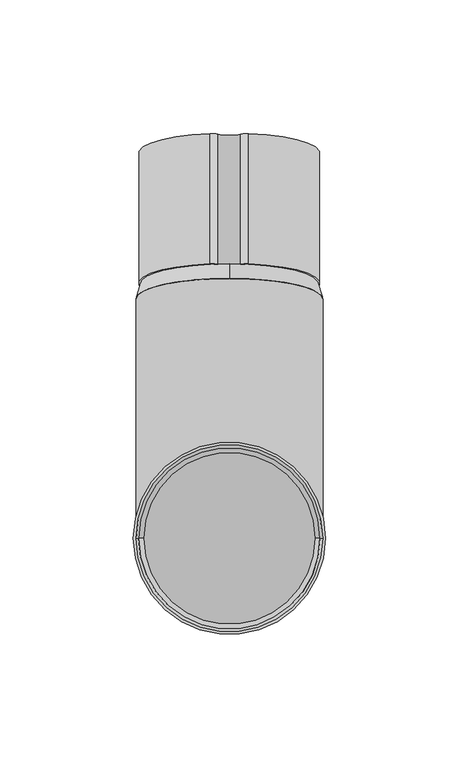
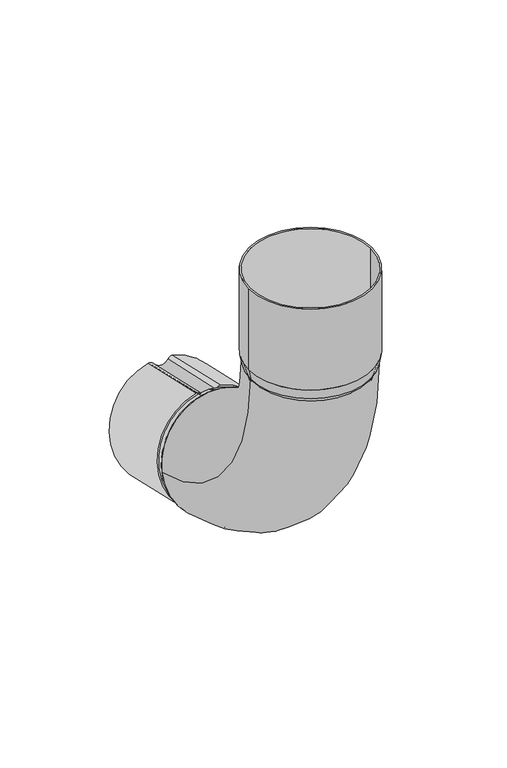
"""IFC4 building model written with IfcOpenShell, lengths in millimetres: proxy geometry, GROVIK_Downpipe_Elbow : N70_75°_Down."""

from ifc_helpers import new_model, si_unit, point, frame, frame_2d, origin, origin_with_axes, origin_2d, place, context, project, spatial, polyline, circle_curve, ellipse_curve, trimmed, segment, composite_curve, outline, extrude, source, transform, mapped, element, save
from ifc_brep_helpers import plane_surface, revolved_surface, advanced_brep


def generic_models_7adf3df0(model_context):
    return source(origin(), model_context, "Body", "SolidModel", [
        extrude(outline(composite_curve([segment(trimmed(circle_curve(origin_2d(), 34.0), [point((-7.2, -33.2289031))], [point((-7.2, 33.2289031))], False, "CARTESIAN"), True, "CONTINUOUS"), segment(trimmed(circle_curve(frame_2d((-6.6504209, 30.1934466)), 3.0848069), [point((-7.2, 33.2289031))], [point((-4.2037022, 32.0721698))], False, "CARTESIAN"), True, "CONTINUOUS"), segment(trimmed(circle_curve(frame_2d((0.0, 35.3)), 5.3), [point((-4.2037022, 32.0721698))], [point((4.2058428, 32.0749595))], True, "CARTESIAN"), True, "CONTINUOUS"), segment(trimmed(circle_curve(frame_2d((6.6465812, 30.2034011)), 3.0757007), [point((4.2058428, 32.0749595))], [point((7.2, 33.2289031))], False, "CARTESIAN"), True, "CONTINUOUS"), segment(trimmed(circle_curve(origin_2d(), 34.0), [point((7.2, 33.2289031))], [point((7.2, -33.2289031))], False, "CARTESIAN"), True, "CONTINUOUS"), segment(trimmed(circle_curve(frame_2d((6.6465812, -30.203401)), 3.0757007), [point((7.2, -33.2289031))], [point((4.2058428, -32.0749594))], False, "CARTESIAN"), True, "CONTINUOUS"), segment(trimmed(circle_curve(frame_2d((0.0, -35.2999999)), 5.3), [point((4.2058428, -32.0749594))], [point((-4.2037022, -32.0721698))], True, "CARTESIAN"), True, "CONTINUOUS"), segment(trimmed(circle_curve(frame_2d((-6.6504209, -30.1934465)), 3.0848069), [point((-4.2037022, -32.0721698))], [point((-7.2, -33.2289031))], False, "CARTESIAN"), True, "CONTINUOUS")], self_intersect=False), holes=[composite_curve([segment(trimmed(circle_curve(frame_2d((-6.6504209, -30.1934465)), 2.0848069), [point((-7.1903364, -32.2071274))], [point((-4.9968535, -31.4631452))], True, "CARTESIAN"), True, "CONTINUOUS"), segment(trimmed(circle_curve(frame_2d((0.0, -35.2999999)), 6.3), [point((-4.9968535, -31.4631452))], [point((4.999398, -31.4664612))], False, "CARTESIAN"), True, "CONTINUOUS"), segment(trimmed(circle_curve(frame_2d((6.6465812, -30.203401)), 2.0757007), [point((4.999398, -31.4664612))], [point((7.1790209, -32.2096516))], True, "CARTESIAN"), True, "CONTINUOUS"), segment(trimmed(circle_curve(origin_2d(), 33.0), [point((7.1790209, -32.2096516))], [point((7.1790209, 32.2096517))], True, "CARTESIAN"), True, "CONTINUOUS"), segment(trimmed(circle_curve(frame_2d((6.6465812, 30.2034011)), 2.0757007), [point((7.1790209, 32.2096517))], [point((4.999398, 31.4664612))], True, "CARTESIAN"), True, "CONTINUOUS"), segment(trimmed(circle_curve(frame_2d((0.0, 35.3)), 6.3), [point((4.999398, 31.4664612))], [point((-4.9968535, 31.4631452))], False, "CARTESIAN"), True, "CONTINUOUS"), segment(trimmed(circle_curve(frame_2d((-6.6504209, 30.1934466)), 2.0848069), [point((-4.9968535, 31.4631452))], [point((-7.1903364, 32.2071276))], True, "CARTESIAN"), True, "CONTINUOUS"), segment(trimmed(circle_curve(origin_2d(), 33.0), [point((-7.1903364, 32.2071276))], [point((-7.1903364, -32.2071274))], True, "CARTESIAN"), True, "CONTINUOUS")], self_intersect=False)]), frame((0.0, 144.3279928, -124.5024853), z_axis=(0.0, -0.9754998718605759, 0.22000000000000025), x_axis=(1.0, 0.0, 0.0)), (0.0, 0.0, 1.0), 50.0),
        extrude(outline(composite_curve([segment(trimmed(circle_curve(origin_2d(), 36.0), [point((-36.0, 0.0))], [point((36.0, 0.0))], False, "CARTESIAN"), True, "CONTINUOUS"), segment(trimmed(circle_curve(origin_2d(), 36.0), [point((36.0, 0.0))], [point((-36.0, 0.0))], False, "CARTESIAN"), True, "CONTINUOUS")], self_intersect=False), holes=[composite_curve([segment(trimmed(circle_curve(origin_2d(), 35.0), [point((-35.0, 0.0))], [point((35.0, 0.0))], True, "CARTESIAN"), True, "CONTINUOUS"), segment(trimmed(circle_curve(origin_2d(), 35.0), [point((35.0, 0.0))], [point((-35.0, 0.0))], True, "CARTESIAN"), True, "CONTINUOUS")], self_intersect=False)]), frame((0.0, 0.0, 6.0), z_axis=(0.0, 0.0, 1.0), x_axis=(1.0, 0.0, 0.0)), (0.0, 0.0, 1.0), 50.0),
        advanced_brep(
        [(-35.0, 0.0, 0.0), (35.0, 0.0, 0.0), (34.0, 0.0, 0.0), (-34.0, 0.0, 0.0), (-36.0, 0.0, 6.0), (36.0, 0.0, 6.0), (-35.0, 0.0, 6.0), (35.0, 0.0, 6.0)],
        [
            (0, 1, circle_curve(frame((0.0, 0.0, 0.0), z_axis=(0.0, 0.0, -1.0), x_axis=(-1.0, 0.0, 0.0)), 35.0)),
            (1, 0, circle_curve(frame((0.0, 0.0, 0.0), z_axis=(0.0, 0.0, -1.0), x_axis=(1.0, 0.0, 0.0)), 35.0)),
            (2, 3, circle_curve(frame((0.0, 0.0, 0.0), z_axis=(0.0, 0.0, 1.0), x_axis=(-1.0, 0.0, 0.0)), 34.0)),
            (3, 2, circle_curve(origin_with_axes(), 34.0)),
            (4, 5, circle_curve(frame((0.0, 0.0, 6.0), z_axis=(0.0, 0.0, 1.0), x_axis=(1.0, 0.0, 0.0)), 36.0)),
            (5, 4, circle_curve(frame((0.0, 0.0, 6.0), z_axis=(0.0, 0.0, 1.0), x_axis=(-1.0, 0.0, 0.0)), 36.0)),
            (6, 7, circle_curve(frame((0.0, 0.0, 6.0), z_axis=(0.0, 0.0, -1.0), x_axis=(-1.0, 0.0, 0.0)), 35.0)),
            (7, 6, circle_curve(frame((0.0, 0.0, 6.0), z_axis=(0.0, 0.0, -1.0), x_axis=(1.0, 0.0, 0.0)), 35.0)),
            (0, 4),
            (5, 1),
            (6, 3),
            (2, 7),
        ],
        [
            plane_surface(frame((0.0, 0.0, 0.0), z_axis=(0.0, 0.0, -1.0), x_axis=(0.0, 1.0, 0.0))),
            plane_surface(frame((0.0, 0.0, 6.0), z_axis=(0.0, 0.0, 1.0), x_axis=(0.0, 1.0, 0.0))),
            revolved_surface(polyline([(-35.0, 0.0, 0.0), (-36.0, 0.0, 6.0)]), (0.0, 0.0, -210.0), (0.0, 0.0, 1.0)),
            revolved_surface(polyline([(35.0, 0.0, 0.0), (36.0, 0.0, 6.0)]), (0.0, 0.0, -210.0), (0.0, 0.0, 1.0)),
            revolved_surface(polyline([(-35.0, 0.0, 6.0), (-34.0, 0.0, 0.0)]), (0.0, 0.0, -204.0), (0.0, 0.0, 1.0)),
        ],
        [
            (0, [[1, 2], [3, 4]]),
            (1, [[5, 6], [7, 8]]),
            (2, [[-1, 9, -6, 10]]),
            (3, [[-2, -10, -5, -9]]),
            (4, [[11, -3, 12, -7]]),
            (4, [[-11, -8, -12, -4]]),
        ],
    ),
        advanced_brep(
        [(0.0, 88.2489992, -145.889081), (0.0, 102.8569992, -81.1158895), (0.0, 102.6369992, -82.0913894), (0.0, 88.4689992, -144.9135811), (0.0, 82.0, -146.3249808), (0.0, 97.4, -78.0399897), (0.0, 82.22, -145.3494809), (0.0, 97.18, -79.0154896)],
        [
            (0, 1, circle_curve(frame((0.0, 95.5529992, -113.5024853), z_axis=(0.0, 0.975499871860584, -0.21999999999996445), x_axis=(0.0, -0.21999999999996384, -0.975499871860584)), 33.2)),
            (1, 0, circle_curve(frame((0.0, 95.5529992, -113.5024853), z_axis=(0.0, 0.975499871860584, -0.21999999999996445), x_axis=(0.0, 0.219999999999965, 0.9754998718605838)), 33.2)),
            (2, 3, circle_curve(frame((0.0, 95.5529992, -113.5024853), z_axis=(0.0, -0.9754998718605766, 0.2199999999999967), x_axis=(0.0, -0.21999999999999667, -0.9754998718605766)), 32.2)),
            (3, 2, circle_curve(frame((0.0, 95.5529992, -113.5024853), z_axis=(0.0, -0.9754998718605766, 0.2199999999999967), x_axis=(0.0, 0.2199999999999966, 0.9754998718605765)), 32.2)),
            (4, 5, circle_curve(frame((0.0, 89.7, -112.1824853), z_axis=(0.0, -0.975499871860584, 0.21999999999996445), x_axis=(0.0, 0.219999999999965, 0.9754998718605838)), 35.0)),
            (5, 4, circle_curve(frame((0.0, 89.7, -112.1824853), z_axis=(0.0, -0.975499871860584, 0.21999999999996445), x_axis=(0.0, -0.21999999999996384, -0.975499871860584)), 35.0)),
            (6, 7, circle_curve(frame((0.0, 89.7, -112.1824853), z_axis=(0.0, 0.9754998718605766, -0.2199999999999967), x_axis=(0.0, -0.21999999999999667, -0.9754998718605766)), 34.0)),
            (7, 6, circle_curve(frame((0.0, 89.7, -112.1824853), z_axis=(0.0, 0.9754998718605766, -0.2199999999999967), x_axis=(0.0, 0.2199999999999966, 0.9754998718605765)), 34.0)),
            (0, 4),
            (5, 1),
            (6, 3),
            (2, 7),
        ],
        [
            plane_surface(frame((0.0, 95.5529992, -113.5024853), z_axis=(0.0, 0.9754998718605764, -0.21999999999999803), x_axis=(-1.0, 0.0, 0.0))),
            plane_surface(frame((0.0, 89.7, -112.1824853), z_axis=(0.0, -0.9754998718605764, 0.21999999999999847), x_axis=(-1.0, 0.0, 0.0))),
            revolved_surface(polyline([(0.0, 88.2489992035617, -145.8890810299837), (0.0, 81.99999998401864, -146.32498080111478)]), (0.0, 203.5083184, -137.8491519), (0.0, -0.975499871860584, 0.21999999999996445)),
            revolved_surface(polyline([(0.0, 102.85699922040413, -81.11588946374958), (0.0, 97.4, -78.0399897)]), (0.0, 203.5083184, -137.8491519), (0.0, -0.975499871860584, 0.21999999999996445)),
            revolved_surface(polyline([(0.0, 82.21999999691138, -145.34948090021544), (0.0, 88.46899920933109, -144.91358113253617)]), (0.0, 200.2566521, -137.1158186), (0.0, -0.9754998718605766, 0.2199999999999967)),
        ],
        [
            (0, [[1, 2], [3, 4]]),
            (1, [[5, 6], [7, 8]]),
            (2, [[-1, 9, -6, 10]]),
            (3, [[-2, -10, -5, -9]]),
            (4, [[11, -3, 12, -7]]),
            (4, [[-11, -8, -12, -4]]),
        ],
    ),
        advanced_brep(
        [(-33.2, 0.0, -6.0), (33.2, 0.0, -6.0), (-32.2, 0.0, -6.0), (32.2, 0.0, -6.0), (-35.0, 0.0, 0.0), (35.0, 0.0, 0.0), (34.0, 0.0, 0.0), (-34.0, 0.0, 0.0)],
        [
            (0, 1, circle_curve(frame((0.0, 0.0, -6.0), z_axis=(0.0, 0.0, -1.0), x_axis=(-1.0, 0.0, 0.0)), 33.2)),
            (1, 0, circle_curve(frame((0.0, 0.0, -6.0), z_axis=(0.0, 0.0, -1.0), x_axis=(1.0, 0.0, 0.0)), 33.2)),
            (2, 3, circle_curve(frame((0.0, 0.0, -6.0), z_axis=(0.0, 0.0, 1.0), x_axis=(1.0, 0.0, 0.0)), 32.2)),
            (3, 2, circle_curve(frame((0.0, 0.0, -6.0), z_axis=(0.0, 0.0, 1.0), x_axis=(-1.0, 0.0, 0.0)), 32.2)),
            (4, 5, circle_curve(origin_with_axes(), 35.0)),
            (5, 4, circle_curve(frame((0.0, 0.0, 0.0), z_axis=(0.0, 0.0, 1.0), x_axis=(-1.0, 0.0, 0.0)), 35.0)),
            (6, 7, circle_curve(frame((0.0, 0.0, 0.0), z_axis=(0.0, 0.0, -1.0), x_axis=(1.0, 0.0, 0.0)), 34.0)),
            (7, 6, circle_curve(frame((0.0, 0.0, 0.0), z_axis=(0.0, 0.0, -1.0), x_axis=(-1.0, 0.0, 0.0)), 34.0)),
            (1, 5),
            (4, 0),
            (6, 3),
            (2, 7),
        ],
        [
            plane_surface(frame((0.0, 0.0, -6.0), z_axis=(0.0, 0.0, -1.0), x_axis=(0.0, 1.0, 0.0))),
            plane_surface(frame((0.0, 0.0, 0.0), z_axis=(0.0, 0.0, 1.0), x_axis=(0.0, 1.0, 0.0))),
            revolved_surface(polyline([(33.20000000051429, 0.0, -6.0), (35.0, 0.0, 0.0)]), (0.0, 0.0, -116.6666667), (0.0, 0.0, 1.0)),
            revolved_surface(polyline([(-33.20000000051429, 0.0, -6.0), (-35.0, 0.0, 0.0)]), (0.0, 0.0, -116.6666667), (0.0, 0.0, 1.0)),
            revolved_surface(polyline([(34.0, 0.0, 0.0), (32.19999999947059, 0.0, -6.0)]), (0.0, 0.0, -113.3333333), (0.0, 0.0, 1.0)),
        ],
        [
            (0, [[1, 2], [3, 4]]),
            (1, [[5, 6], [7, 8]]),
            (2, [[-2, 9, -5, 10]]),
            (3, [[-1, -10, -6, -9]]),
            (4, [[11, -3, 12, -7]]),
            (4, [[-11, -8, -12, -4]]),
        ],
    ),
        advanced_brep(
        [(-35.0, 0.0, 0.0), (35.0, 0.0, 0.0), (-34.0, 0.0, 0.0), (34.0, 0.0, 0.0), (-35.0, 89.7, -112.1824853), (35.0, 89.7, -112.1824853), (-34.0, 89.7, -112.1824853), (34.0, 89.7, -112.1824853)],
        [
            (0, 1, circle_curve(origin_with_axes(), 35.0)),
            (1, 0, circle_curve(origin_with_axes(), 35.0)),
            (2, 3, circle_curve(frame((0.0, 0.0, 0.0), z_axis=(0.0, 0.0, -1.0), x_axis=(1.0, 0.0, 0.0)), 34.0)),
            (3, 2, circle_curve(frame((0.0, 0.0, 0.0), z_axis=(0.0, 0.0, -1.0), x_axis=(1.0, 0.0, 0.0)), 34.0)),
            (4, 5, circle_curve(frame((0.0, 89.7, -112.1824853), z_axis=(0.0, 0.975499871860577, -0.21999999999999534), x_axis=(1.0, 0.0, 0.0)), 35.0)),
            (5, 4, circle_curve(frame((0.0, 89.7, -112.1824853), z_axis=(0.0, 0.975499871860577, -0.21999999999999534), x_axis=(1.0, 0.0, 0.0)), 35.0)),
            (6, 7, circle_curve(frame((0.0, 89.7, -112.1824853), z_axis=(0.0, -0.975499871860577, 0.21999999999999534), x_axis=(1.0, 0.0, 0.0)), 34.0)),
            (7, 6, circle_curve(frame((0.0, 89.7, -112.1824853), z_axis=(0.0, -0.975499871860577, 0.21999999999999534), x_axis=(1.0, 0.0, 0.0)), 34.0)),
            (7, 3, circle_curve(frame((34.0, 115.0, 0.0), z_axis=(-1.0, 0.0, 0.0), x_axis=(0.0, -1.0, 0.0)), 115.0)),
            (2, 6, circle_curve(frame((-34.0, 115.0, 0.0), z_axis=(1.0, 0.0, 0.0), x_axis=(0.0, -1.0, 0.0)), 115.0)),
            (5, 1, circle_curve(frame((35.0, 115.0, 0.0), z_axis=(-1.0, 0.0, 0.0), x_axis=(0.0, -1.0, 0.0)), 115.0)),
            (0, 4, circle_curve(frame((-35.0, 115.0, 0.0), z_axis=(1.0, 0.0, 0.0), x_axis=(0.0, -1.0, 0.0)), 115.0)),
        ],
        [
            plane_surface(origin_with_axes()),
            plane_surface(frame((0.0, 89.7, -112.1824853), z_axis=(0.0, 0.975499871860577, -0.21999999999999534), x_axis=(1.0, 0.0, 0.0))),
            revolved_surface(trimmed(ellipse_curve(frame((0.0, 0.0, 0.0), z_axis=(0.0, 0.0, -1.0), x_axis=(1.0, 0.0, 0.0)), 34.0, 34.0), [point((-34.0, 0.0, 0.0))], [point((34.0, 0.0, 0.0))], True, "CARTESIAN"), (0.0, 115.0, 0.0), (1.0, 0.0, 0.0)),
            revolved_surface(trimmed(ellipse_curve(frame((0.0, 0.0, 0.0), z_axis=(0.0, 0.0, -1.0), x_axis=(1.0, 0.0, 0.0)), 34.0, 34.0), [point((34.0, 0.0, 0.0))], [point((-34.0, 0.0, 0.0))], True, "CARTESIAN"), (0.0, 115.0, 0.0), (1.0, 0.0, 0.0)),
            revolved_surface(trimmed(ellipse_curve(origin_with_axes(), 35.0, 35.0), [point((-35.0, 0.0, 0.0))], [point((35.0, 0.0, 0.0))], True, "CARTESIAN"), (0.0, 115.0, 0.0), (1.0, 0.0, 0.0)),
            revolved_surface(trimmed(ellipse_curve(origin_with_axes(), 35.0, 35.0), [point((35.0, 0.0, 0.0))], [point((-35.0, 0.0, 0.0))], True, "CARTESIAN"), (0.0, 115.0, 0.0), (1.0, 0.0, 0.0)),
        ],
        [
            (0, [[1, 2], [3, 4]]),
            (1, [[5, 6], [7, 8]]),
            (2, [[9, -3, 10, -8]]),
            (3, [[-10, -4, -9, -7]]),
            (4, [[11, -1, 12, -6]]),
            (5, [[-12, -2, -11, -5]]),
        ],
    ),
    ])


if __name__ == "__main__":
    model = new_model("IFC4")
    model_context = context("Model", 3, world=origin())
    ifc_project = project(units=[si_unit("LENGTHUNIT", "METRE", prefix="MILLI")], contexts=[model_context])
    site = spatial("IfcSite", under=ifc_project)
    building = spatial("IfcBuilding", under=site)
    placement = place(None, origin())
    generic_models_shape = generic_models_7adf3df0(model_context)
    element("IfcBuildingElementProxy", 1, Name="GROVIK_Downpipe_Elbow : N70_75°_Down", ObjectType="GROVIK_Downpipe_Elbow : N70_75°_Down", at=placement, inside=building, context=model_context, shape_type="MappedRepresentation", body=[
        mapped(generic_models_shape, transform((0.0, 0.0, 0.0), x_axis=(1.0, 0.0, 0.0), y_axis=(0.0, 1.0, 0.0), z_axis=(0.0, 0.0, 1.0))),
    ])
    save(model, "model.ifc")
